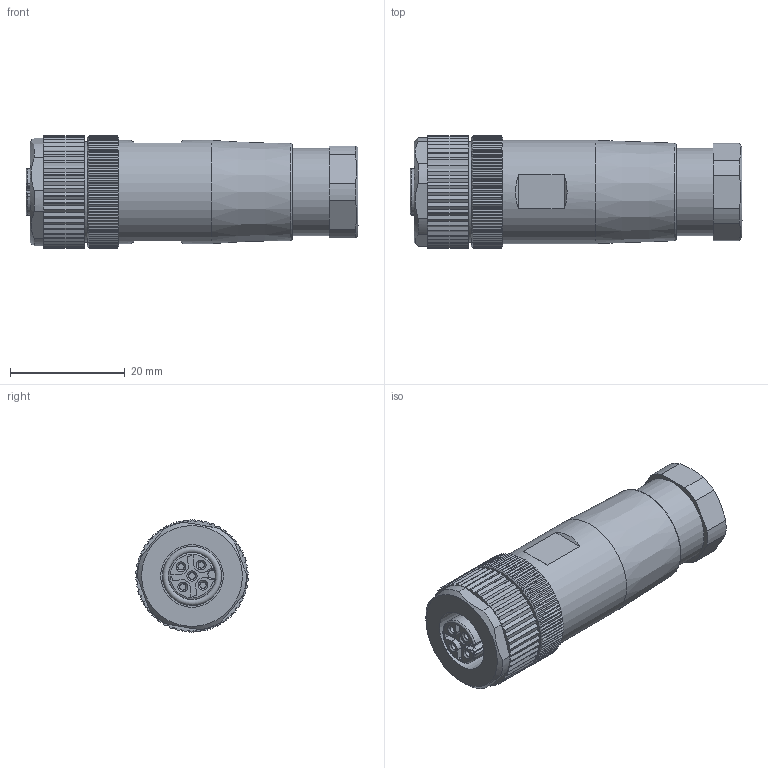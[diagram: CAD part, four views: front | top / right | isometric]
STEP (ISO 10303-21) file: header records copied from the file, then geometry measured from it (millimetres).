
FILE_DESCRIPTION(/* description */ (''),/* implementation_level */ '2;1');
FILE_NAME(/* name */ '99 0430 XXX 04 006_03_PG9.stp',/* time_stamp */ '2020-10-29T07:47:02+01:00',/* author */ (''),/* organization */ (''),/* preprocessor_version */ 'ST-DEVELOPER v16',/* originating_system */ 'SIEMENS PLM Software NX 11.0',/* authorisation */ '');
FILE_SCHEMA (('AUTOMOTIVE_DESIGN { 1 0 10303 214 3 1 1 1 }'));
Length unit declared in the file: millimetre
Products named in the file (1): rhen1EF43E57y9dv
Bounding box: 57.9 x 19.59 x 19.6 mm (x, y, z)
Volume: 13629.9 mm3; surface area: 4671.8 mm2
Topology: 1 solids, 1 shells, 578 faces, 1630 edges, 1073 vertices
Faces by surface type: plane 372, cylinder 188, cone 9, torus 6, sphere 3
Full cylindrical faces by diameter (mm): 1.1 x4, 1.2 x1, 1.65 x4, 9.5 x1, 10.917 x1, 15.2 x1, 16.2 x1, 17.6 x1, 18 x1, 19 x1
Entity records: 18673 total; most frequent: CARTESIAN_POINT 3940, ORIENTED_EDGE 3168, DIRECTION 2948, EDGE_CURVE 1584, VERTEX_POINT 1057, AXIS2_PLACEMENT_3D 1002, LINE 944, VECTOR 944
